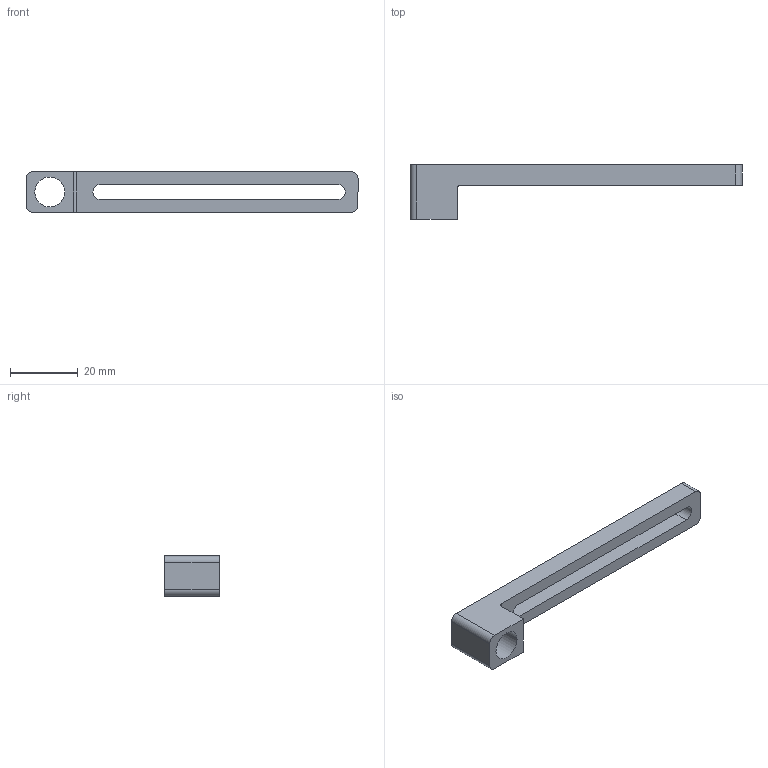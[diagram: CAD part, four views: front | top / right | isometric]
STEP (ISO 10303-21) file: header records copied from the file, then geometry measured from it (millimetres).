
FILE_DESCRIPTION (( 'STEP AP214' ), '1' );
FILE_NAME ('SCF1-40G18.STEP', '2019-11-06T07:41:24', ( '微软用户' ), ( '微软中国' ), 'SwSTEP 2.0', 'SolidWorks 2016', '' );
FILE_SCHEMA (( 'AUTOMOTIVE_DESIGN' ));
Length unit declared in the file: millimetre
Products named in the file (1): SCF1-40G18
Bounding box: 98 x 16 x 12 mm (x, y, z)
Volume: 5742.2 mm3; surface area: 4726.3 mm2
Topology: 1 solids, 1 shells, 19 faces, 51 edges, 34 vertices
Faces by surface type: plane 10, cylinder 9
Entity records: 645 total; most frequent: DIRECTION 109, CARTESIAN_POINT 105, ORIENTED_EDGE 102, EDGE_CURVE 51, AXIS2_PLACEMENT_3D 38, VERTEX_POINT 34, VECTOR 33, LINE 33
